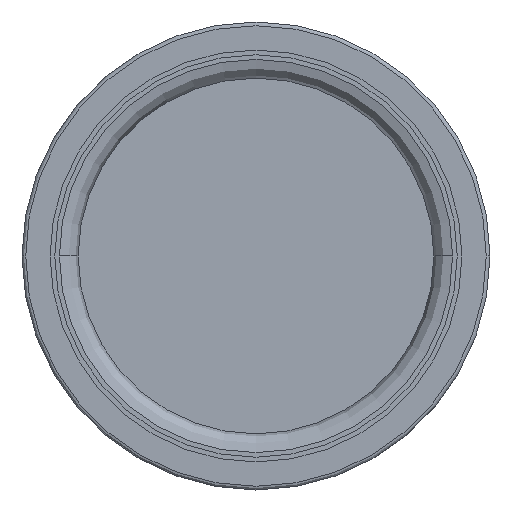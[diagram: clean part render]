
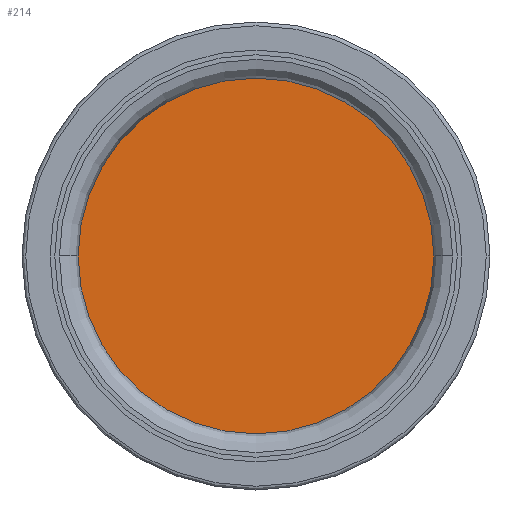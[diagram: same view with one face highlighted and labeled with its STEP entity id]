
A CAD part, front view. The second image highlights one B-rep face of the part: STEP entity #214.
In plain terms, the highlighted planar face has unit normal (0, -1, 0).
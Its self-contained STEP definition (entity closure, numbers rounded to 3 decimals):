
#214 = ADVANCED_FACE ( 'NONE', ( #694 ), #1282, .F. ) ;
#243 = EDGE_CURVE ( 'NONE', #663, #398, #2776, .T. ) ;
#301 = AXIS2_PLACEMENT_3D ( 'NONE', #1943, #902, #460 ) ;
#398 = VERTEX_POINT ( 'NONE', #1096 ) ;
#460 = DIRECTION ( 'NONE',  ( 0., 0., 1. ) ) ;
#663 = VERTEX_POINT ( 'NONE', #824 ) ;
#664 = AXIS2_PLACEMENT_3D ( 'NONE', #682, #2612, #1319 ) ;
#682 = CARTESIAN_POINT ( 'NONE',  ( 0., 0., 0. ) ) ;
#694 = FACE_OUTER_BOUND ( 'NONE', #2369, .T. ) ;
#787 = DIRECTION ( 'NONE',  ( 0., 1., 0. ) ) ;
#824 = CARTESIAN_POINT ( 'NONE',  ( 0., 0., -10.75 ) ) ;
#902 = DIRECTION ( 'NONE',  ( 0., 1., 0. ) ) ;
#1063 = EDGE_CURVE ( 'NONE', #398, #663, #1102, .T. ) ;
#1096 = CARTESIAN_POINT ( 'NONE',  ( 0., 0., 10.75 ) ) ;
#1102 = CIRCLE ( 'NONE', #1783, 10.75 ) ;
#1282 = PLANE ( 'NONE',  #664 ) ;
#1319 = DIRECTION ( 'NONE',  ( 0., 0., 1. ) ) ;
#1708 = ORIENTED_EDGE ( 'NONE', *, *, #243, .F. ) ;
#1783 = AXIS2_PLACEMENT_3D ( 'NONE', #2070, #787, #2740 ) ;
#1841 = ORIENTED_EDGE ( 'NONE', *, *, #1063, .F. ) ;
#1943 = CARTESIAN_POINT ( 'NONE',  ( 0., 0., 0. ) ) ;
#2070 = CARTESIAN_POINT ( 'NONE',  ( 0., 0., 0. ) ) ;
#2369 = EDGE_LOOP ( 'NONE', ( #1708, #1841 ) ) ;
#2612 = DIRECTION ( 'NONE',  ( 0., 1., 0. ) ) ;
#2740 = DIRECTION ( 'NONE',  ( 0., 0., 1. ) ) ;
#2776 = CIRCLE ( 'NONE', #301, 10.75 ) ;
